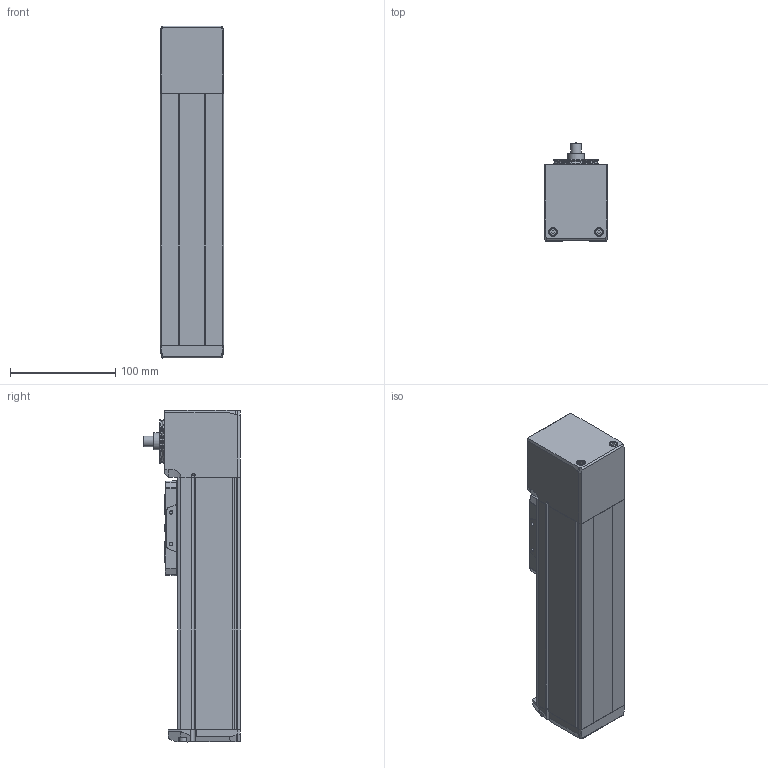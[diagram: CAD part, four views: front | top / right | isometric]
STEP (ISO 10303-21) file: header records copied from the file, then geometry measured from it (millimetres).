
FILE_DESCRIPTION(/* description */ ('STEP AP214'),/* implementation_level */ '2;1');
FILE_NAME(/* name */ 'MGTB 60 100(0)',/* time_stamp */ '2023-04-17T13:39:08+02:00',/* author */ ('License CC BY-ND 4.0'),/* organization */ ('CADENAS'),/* preprocessor_version */ 'ST-DEVELOPER v19.3',/* originating_system */ 'PARTsolutions',/* authorisation */ ' ');
FILE_SCHEMA (('AUTOMOTIVE_DESIGN {1 0 10303 214 3 1 1}'));
Length unit declared in the file: millimetre
Products named in the file (6): MGTB 60 100(0); MGTB 60 100_protection_strip; MGTB 60_carriage; MGTB 60_end_block; MGTB 60 100_profile; MGTB 60_drive_block
Assembly tree (5 placements, depth 2):
  MGTB 60 100(0)
    MGTB 60 100_protection_strip
    MGTB 60_carriage
    MGTB 60_end_block
    MGTB 60 100_profile
    MGTB 60_drive_block
Bounding box: 60 x 92.5 x 315.01 mm (x, y, z)
Volume: 1202472.1 mm3; surface area: 157803.4 mm2
Topology: 5 solids, 5 shells, 696 faces, 1771 edges, 1140 vertices
Faces by surface type: plane 351, cylinder 156, cone 94, bspline 68, torus 25, sphere 2
Full cylindrical faces by diameter (mm): 2 x1, 2.459 x4, 3.242 x6, 4 x12, 4.134 x8, 4.2 x2, 4.8 x2, 5 x2, 5.5 x4, 7 x6, 8 x4, 10 x1, 11 x3, 16 x1, 17 x1, 30 x1, 35 x1, 42 x2
Entity records: 25037 total; most frequent: CARTESIAN_POINT 4184, DIRECTION 3411, ORIENTED_EDGE 3232, EDGE_CURVE 1616, AXIS2_PLACEMENT_3D 1219, VERTEX_POINT 1120, LINE 973, VECTOR 973
